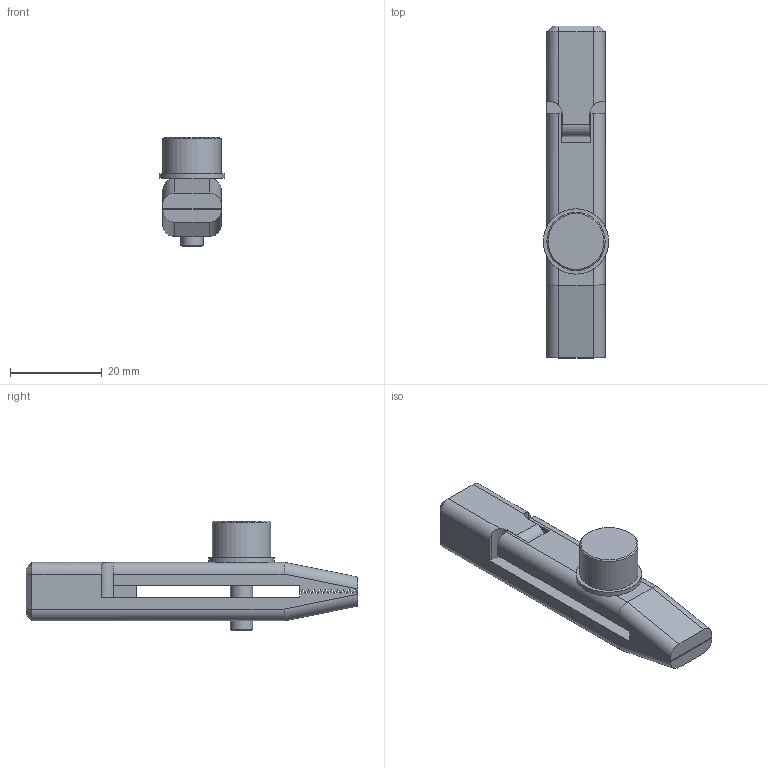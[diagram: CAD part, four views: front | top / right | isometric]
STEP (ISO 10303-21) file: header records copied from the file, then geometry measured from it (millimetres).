
FILE_DESCRIPTION(/* description */ (''),/* implementation_level */ '2;1');
FILE_NAME(/* name */ 'F:\MARKETING\SOLID MODELS\GRIPS\G1124\G1124.stp',/* time_stamp */ '2024-04-09T15:27:21-04:00',/* author */ ('ntakaki'),/* organization */ (''),/* preprocessor_version */ 'ST-DEVELOPER v18.1',/* originating_system */ 'AutoCAD Mechanical',/* authorisation */ '');
FILE_SCHEMA (('AUTOMOTIVE_DESIGN { 1 0 10303 214 3 1 1 }'));
Length unit declared in the file: inch
Products named in the file (1): Product
Bounding box: 14.27 x 72.39 x 23.81 mm (x, y, z)
Volume: 10141.3 mm3; surface area: 6203.7 mm2
Topology: 3 solids, 3 shells, 105 faces, 275 edges, 179 vertices
Faces by surface type: plane 77, cylinder 22, cone 6
Full cylindrical faces by diameter (mm): 2.515 x1, 2.887 x1, 3.962 x2, 4.826 x1, 12.7 x1, 14.275 x1
Entity records: 3245 total; most frequent: CARTESIAN_POINT 578, ORIENTED_EDGE 550, DIRECTION 532, EDGE_CURVE 275, LINE 226, VECTOR 226, VERTEX_POINT 179, AXIS2_PLACEMENT_3D 153
